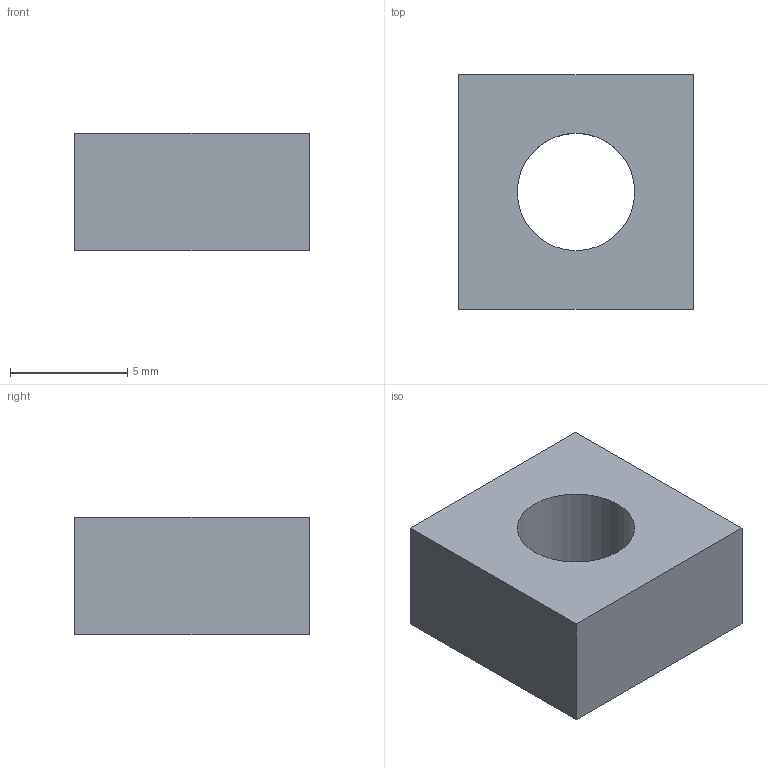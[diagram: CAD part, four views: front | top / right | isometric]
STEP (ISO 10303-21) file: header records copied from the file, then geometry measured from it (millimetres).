
FILE_DESCRIPTION( ( 'STEP AP203' ), '1' );
FILE_NAME( 'C:/NSM-06-5.stp', '2013-10-20T23:52:17', ( ' ' ), ( ' ' ), 'XStep 1.0', ' ', ' ' );
FILE_SCHEMA( ( 'CONFIG_CONTROL_DESIGN' ) );
Length unit declared in the file: metre
Products named in the file (1): 1
Bounding box: 10 x 10 x 5 mm (x, y, z)
Volume: 401 mm3; surface area: 439.5 mm2
Topology: 1 solids, 1 shells, 7 faces, 15 edges, 10 vertices
Faces by surface type: bspline 7
Entity records: 243 total; most frequent: CARTESIAN_POINT 63, ORIENTED_EDGE 28, DIRECTION 18, EDGE_CURVE 14, LINE 12, VECTOR 12, EDGE_LOOP 10, VERTEX_POINT 10
